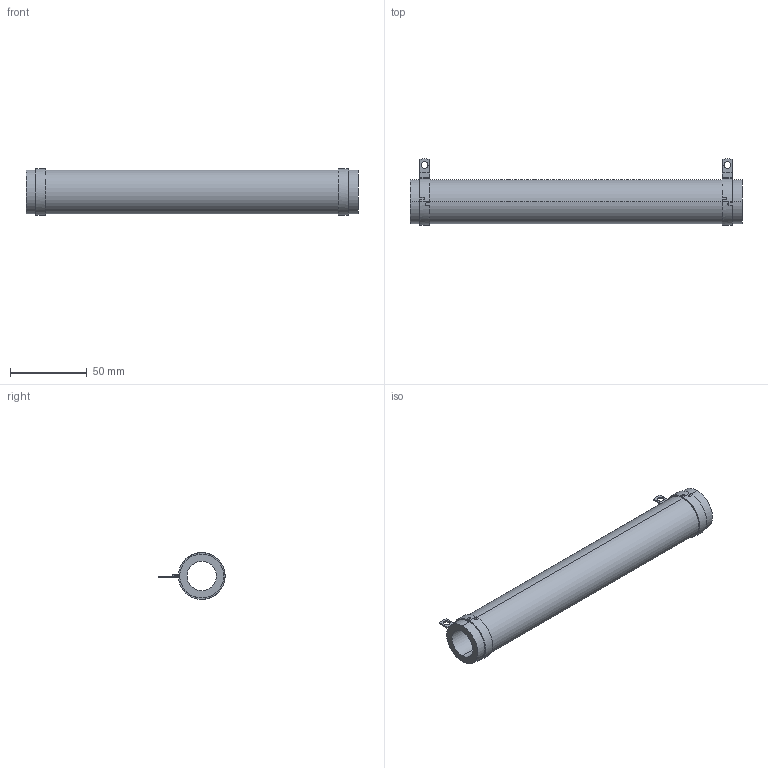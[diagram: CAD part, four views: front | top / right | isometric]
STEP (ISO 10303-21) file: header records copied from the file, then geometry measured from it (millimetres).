
FILE_DESCRIPTION (( 'STEP AP203' ), '1' );
FILE_NAME ('RBEF0300xxxxxKFB00.STEP', '2014-04-04T18:53:34', ( '' ), ( '' ), 'SwSTEP 2.0', 'SolidWorks 2012', '' );
FILE_SCHEMA (( 'CONFIG_CONTROL_DESIGN' ));
Length unit declared in the file: millimetre
Products named in the file (3): DAL013-06_DAL013-132; DAL15-160-XXX_DAL15-160-918-CLOSED; RBEF0300xxxxxKFB00
Assembly tree (3 placements, depth 2):
  RBEF0300xxxxxKFB00
    DAL013-06_DAL013-132
    DAL15-160-XXX_DAL15-160-918-CLOSED  x2
Bounding box: 215.9 x 43.03 x 30.35 mm (x, y, z)
Volume: 78101.9 mm3; surface area: 36121.7 mm2
Topology: 3 solids, 3 shells, 80 faces, 190 edges, 116 vertices
Faces by surface type: plane 42, cylinder 34, bspline 4
Entity records: 1692 total; most frequent: CARTESIAN_POINT 352, DIRECTION 229, ORIENTED_EDGE 202, EDGE_CURVE 101, AXIS2_PLACEMENT_3D 89, VERTEX_POINT 62, LINE 51, VECTOR 51
